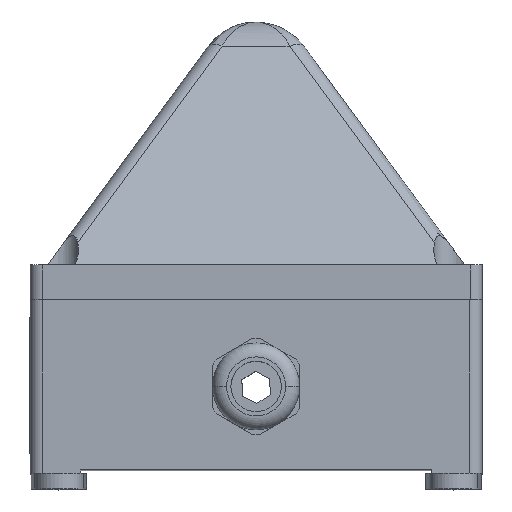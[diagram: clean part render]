
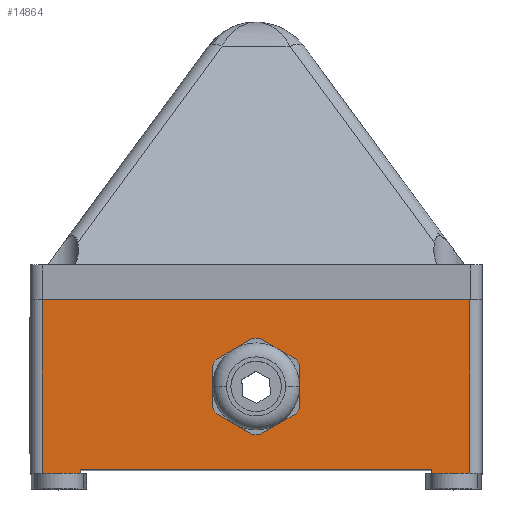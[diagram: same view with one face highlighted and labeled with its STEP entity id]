
A CAD part, top view. The second image highlights one B-rep face of the part: STEP entity #14864.
In plain terms, the highlighted planar face has unit normal (0, 0, 1).
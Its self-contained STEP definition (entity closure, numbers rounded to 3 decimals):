
#473 = DIRECTION ( 'NONE',  ( 0., -1., 0. ) ) ;
#496 = CARTESIAN_POINT ( 'NONE',  ( -61.5, 0., 65. ) ) ;
#642 = VECTOR ( 'NONE', #473, 1000. ) ;
#643 = LINE ( 'NONE', #650, #642 ) ;
#650 = CARTESIAN_POINT ( 'NONE',  ( -61.5, 50., 65. ) ) ;
#966 = LINE ( 'NONE', #1007, #1009 ) ;
#972 = DIRECTION ( 'NONE',  ( 0., -1., 0. ) ) ;
#973 = VECTOR ( 'NONE', #972, 1000. ) ;
#974 = CARTESIAN_POINT ( 'NONE',  ( -50.5, 1., 65. ) ) ;
#985 = LINE ( 'NONE', #974, #973 ) ;
#989 = DIRECTION ( 'NONE',  ( -1., 0., 0. ) ) ;
#994 = DIRECTION ( 'NONE',  ( 1., 0., 0. ) ) ;
#995 = VECTOR ( 'NONE', #994, 1000. ) ;
#997 = CARTESIAN_POINT ( 'NONE',  ( -61.5, 0., 65. ) ) ;
#998 = LINE ( 'NONE', #997, #995 ) ;
#999 = DIRECTION ( 'NONE',  ( 0., -1., 0. ) ) ;
#1000 = VECTOR ( 'NONE', #999, 1000. ) ;
#1001 = CARTESIAN_POINT ( 'NONE',  ( 50.5, 1., 65. ) ) ;
#1003 = LINE ( 'NONE', #1001, #1000 ) ;
#1007 = CARTESIAN_POINT ( 'NONE',  ( -50.5, 1., 65. ) ) ;
#1009 = VECTOR ( 'NONE', #989, 1000. ) ;
#1012 = CARTESIAN_POINT ( 'NONE',  ( 50.5, 0., 65. ) ) ;
#1049 = FACE_OUTER_BOUND ( 'NONE', #14873, .T. ) ;
#1052 = CARTESIAN_POINT ( 'NONE',  ( -10.25, 25., 65. ) ) ;
#1056 = AXIS2_PLACEMENT_3D ( 'NONE', #1090, #1089, #1088 ) ;
#1058 = FACE_BOUND ( 'NONE', #14807, .T. ) ;
#1059 = CARTESIAN_POINT ( 'NONE',  ( -50.5, 1., 65. ) ) ;
#1073 = PLANE ( 'NONE',  #1056 ) ;
#1076 = CARTESIAN_POINT ( 'NONE',  ( 50.5, 1., 65. ) ) ;
#1077 = CARTESIAN_POINT ( 'NONE',  ( 10.25, 25., 65. ) ) ;
#1088 = DIRECTION ( 'NONE',  ( -1., 0., 0. ) ) ;
#1089 = DIRECTION ( 'NONE',  ( 0., 0., -1. ) ) ;
#1090 = CARTESIAN_POINT ( 'NONE',  ( -61.5, 50., 65. ) ) ;
#1110 = CIRCLE ( 'NONE', #1216, 10.25 ) ;
#1153 = CARTESIAN_POINT ( 'NONE',  ( -50.5, 0., 65. ) ) ;
#1190 = DIRECTION ( 'NONE',  ( 1., 0., 0. ) ) ;
#1191 = VECTOR ( 'NONE', #1190, 1000. ) ;
#1193 = CARTESIAN_POINT ( 'NONE',  ( -61.5, 0., 65. ) ) ;
#1194 = LINE ( 'NONE', #1193, #1191 ) ;
#1203 = DIRECTION ( 'NONE',  ( 1., 0., 0. ) ) ;
#1204 = DIRECTION ( 'NONE',  ( 0., 0., 1. ) ) ;
#1206 = CARTESIAN_POINT ( 'NONE',  ( 0., 25., 65. ) ) ;
#1216 = AXIS2_PLACEMENT_3D ( 'NONE', #1206, #1204, #1203 ) ;
#1351 = LINE ( 'NONE', #1468, #1466 ) ;
#1364 = AXIS2_PLACEMENT_3D ( 'NONE', #1433, #1432, #1431 ) ;
#1431 = DIRECTION ( 'NONE',  ( 1., 0., 0. ) ) ;
#1432 = DIRECTION ( 'NONE',  ( 0., 0., 1. ) ) ;
#1433 = CARTESIAN_POINT ( 'NONE',  ( 0., 25., 65. ) ) ;
#1442 = CIRCLE ( 'NONE', #1364, 10.25 ) ;
#1465 = DIRECTION ( 'NONE',  ( 1., 0., 0. ) ) ;
#1466 = VECTOR ( 'NONE', #1465, 1000. ) ;
#1468 = CARTESIAN_POINT ( 'NONE',  ( -61.5, 50., 65. ) ) ;
#5742 = EDGE_CURVE ( 'NONE', #5825, #5896, #16555, .T. ) ;
#5825 = VERTEX_POINT ( 'NONE', #17196 ) ;
#5892 = VERTEX_POINT ( 'NONE', #17510 ) ;
#5896 = VERTEX_POINT ( 'NONE', #17501 ) ;
#9560 = VERTEX_POINT ( 'NONE', #496 ) ;
#9565 = EDGE_CURVE ( 'NONE', #5892, #9560, #643, .T. ) ;
#14790 = EDGE_CURVE ( 'NONE', #14857, #14865, #985, .T. ) ;
#14802 = VERTEX_POINT ( 'NONE', #1012 ) ;
#14805 = EDGE_CURVE ( 'NONE', #14854, #14802, #1003, .T. ) ;
#14806 = ORIENTED_EDGE ( 'NONE', *, *, #14874, .T. ) ;
#14807 = EDGE_LOOP ( 'NONE', ( #14811, #14872 ) ) ;
#14809 = ORIENTED_EDGE ( 'NONE', *, *, #14816, .F. ) ;
#14811 = ORIENTED_EDGE ( 'NONE', *, *, #14905, .F. ) ;
#14812 = EDGE_CURVE ( 'NONE', #14802, #5896, #998, .T. ) ;
#14813 = ORIENTED_EDGE ( 'NONE', *, *, #14790, .F. ) ;
#14814 = ORIENTED_EDGE ( 'NONE', *, *, #5742, .F. ) ;
#14815 = ORIENTED_EDGE ( 'NONE', *, *, #14895, .F. ) ;
#14816 = EDGE_CURVE ( 'NONE', #14854, #14857, #966, .T. ) ;
#14818 = ORIENTED_EDGE ( 'NONE', *, *, #14805, .T. ) ;
#14819 = ORIENTED_EDGE ( 'NONE', *, *, #14812, .T. ) ;
#14854 = VERTEX_POINT ( 'NONE', #1076 ) ;
#14857 = VERTEX_POINT ( 'NONE', #1059 ) ;
#14862 = VERTEX_POINT ( 'NONE', #1077 ) ;
#14863 = VERTEX_POINT ( 'NONE', #1052 ) ;
#14864 = ADVANCED_FACE ( 'NONE', ( #1058, #1049 ), #1073, .F. ) ;
#14865 = VERTEX_POINT ( 'NONE', #1153 ) ;
#14871 = EDGE_CURVE ( 'NONE', #14863, #14862, #1110, .T. ) ;
#14872 = ORIENTED_EDGE ( 'NONE', *, *, #14871, .F. ) ;
#14873 = EDGE_LOOP ( 'NONE', ( #14806, #14813, #14809, #14818, #14819, #14814, #14815, #14893 ) ) ;
#14874 = EDGE_CURVE ( 'NONE', #9560, #14865, #1194, .T. ) ;
#14893 = ORIENTED_EDGE ( 'NONE', *, *, #9565, .T. ) ;
#14895 = EDGE_CURVE ( 'NONE', #5892, #5825, #1351, .T. ) ;
#14905 = EDGE_CURVE ( 'NONE', #14862, #14863, #1442, .T. ) ;
#16553 = DIRECTION ( 'NONE',  ( 0., -1., 0. ) ) ;
#16554 = CARTESIAN_POINT ( 'NONE',  ( 61.5, 50., 65. ) ) ;
#16555 = LINE ( 'NONE', #16554, #16610 ) ;
#16610 = VECTOR ( 'NONE', #16553, 1000. ) ;
#17196 = CARTESIAN_POINT ( 'NONE',  ( 61.5, 50., 65. ) ) ;
#17501 = CARTESIAN_POINT ( 'NONE',  ( 61.5, 0., 65. ) ) ;
#17510 = CARTESIAN_POINT ( 'NONE',  ( -61.5, 50., 65. ) ) ;
